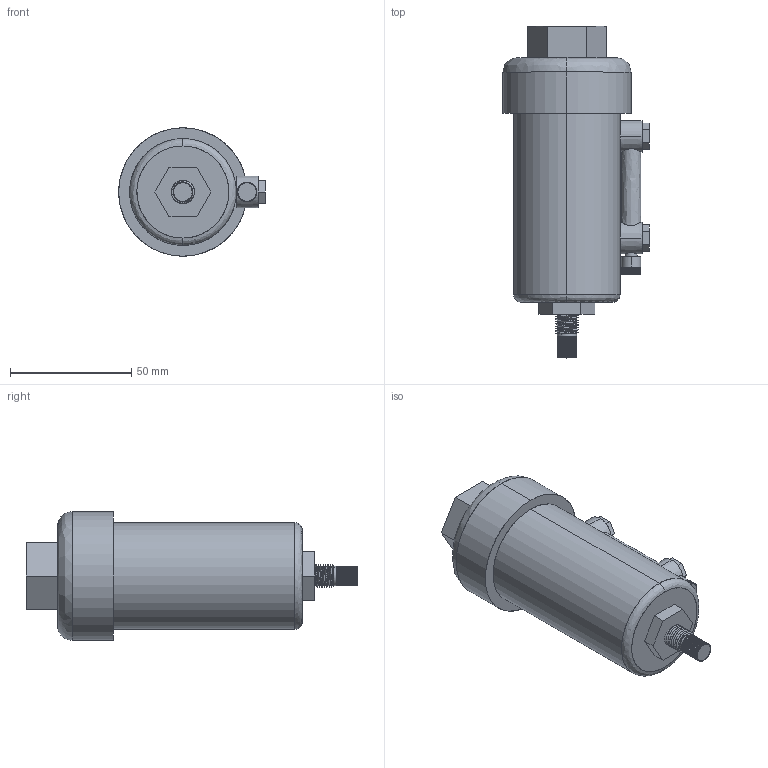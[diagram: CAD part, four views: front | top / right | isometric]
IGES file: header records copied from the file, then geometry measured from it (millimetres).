
Start section: SolidWorks IGES file using analytic representation for surfaces
Global section: file name: D:\Custom\3D繪製\FRL\洩水器\D011W-04.IGS; native system: SolidWorks 2014; preprocessor: SolidWorks 2014; author: Chieh_Lu; date: 160115.023059; units: millimetre
Bounding box: 60.5 x 137 x 53 mm (x, y, z)
Surface area: 28434.7 mm2 (no closed solid volume)
Topology: 0 solids, 0 shells, 424 faces, 3684 edges, 3682 vertices
Faces by surface type: bspline 377, revolution 47
